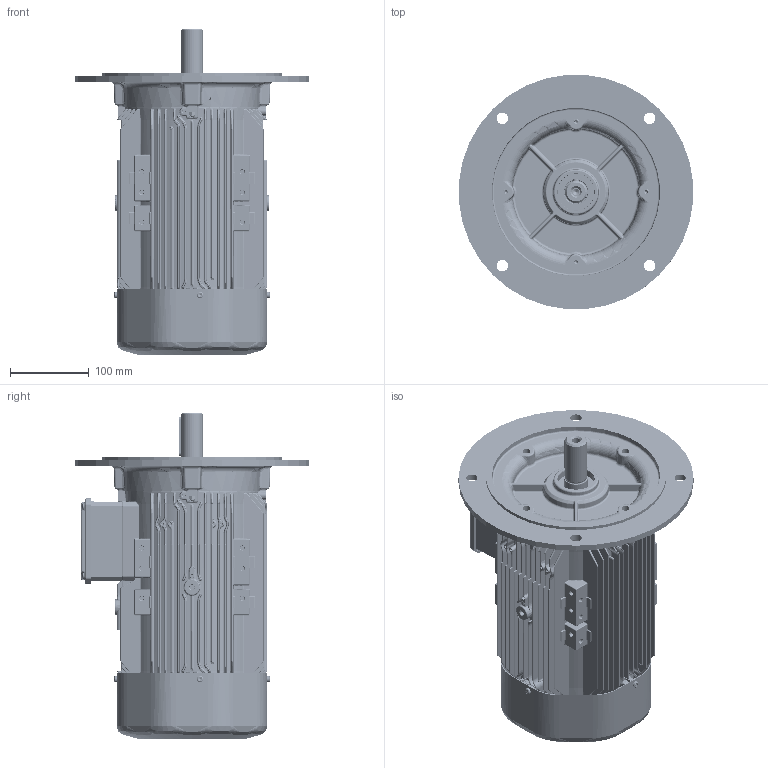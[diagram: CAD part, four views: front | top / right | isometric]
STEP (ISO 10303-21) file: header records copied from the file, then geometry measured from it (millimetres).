
FILE_DESCRIPTION(/* description */ (''),/* implementation_level */ '2;1');
FILE_NAME(/* name */ 'OUTLOOK VIEW QH100 FA B5 - BIGGER FF265 SPL.stp',/* time_stamp */ '2021-09-13T12:03:40+03:00',/* author */ (''),/* organization */ (''),/* preprocessor_version */ 'ST-DEVELOPER v16',/* originating_system */ 'SIEMENS PLM Software NX 11.0',/* authorisation */ '');
FILE_SCHEMA (('AUTOMOTIVE_DESIGN { 1 0 10303 214 3 1 1 1 }'));
Products named in the file (1): 26062CE45B9Cd52p
Bounding box: 297.86 x 297.86 x 415.31 mm (x, y, z)
Volume: 5436108.9 mm3; surface area: 2040364.1 mm2
Topology: 72 solids, 72 shells, 11120 faces, 27132 edges, 15811 vertices
Faces by surface type: cylinder 3600, bspline 3376, plane 2629, torus 662, cone 508, sphere 326, extrusion 19
Full cylindrical faces by diameter (mm): 3.242 x4, 3.3 x4, 4 x9, 4.722 x3, 5 x20, 5.5 x4, 8 x8, 8.5 x9, 10 x5, 10.5 x1, 14.5 x4, 18.7 x1, 23.38 x2, 23.9 x1, 24.4 x1, 24.8 x1, 25 x5, 25.2 x1, 27.4 x1, 28 x1, 28.6 x1, 29.4 x1, 30 x3, 31 x1, 31.6 x1, 34 x2, 34.35 x8, 40 x1, 43.95 x4, 44.6 x4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
Entity records: 449876 total; most frequent: CARTESIAN_POINT 158870, ORIENTED_EDGE 51866, DIRECTION 47941, EDGE_CURVE 25933, AXIS2_PLACEMENT_3D 19530, VERTEX_POINT 15602, EDGE_LOOP 12169, ADVANCED_FACE 11100
